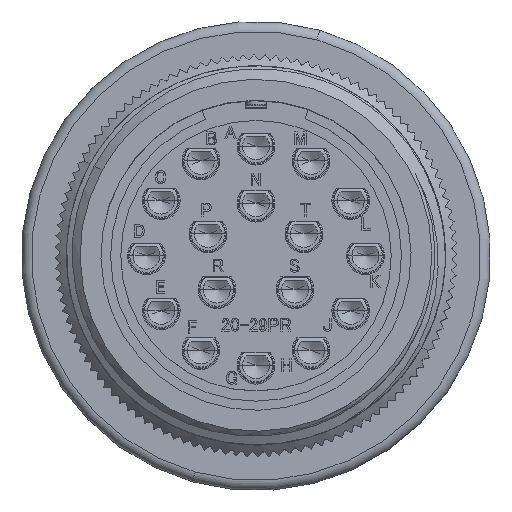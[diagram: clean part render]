
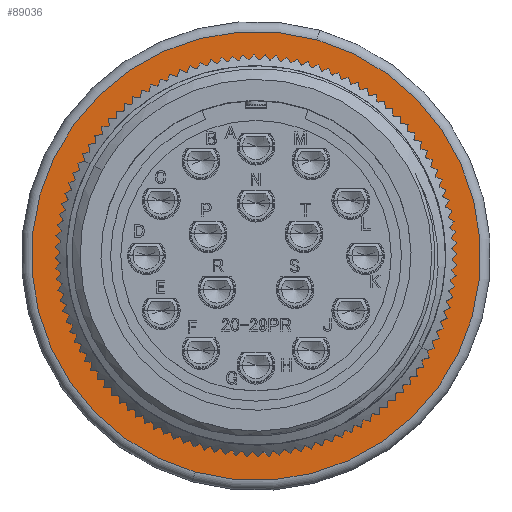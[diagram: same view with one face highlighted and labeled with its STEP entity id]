
A CAD part, top view. The second image highlights one B-rep face of the part: STEP entity #89036.
In plain terms, the highlighted planar face has unit normal (0, 0, 1).
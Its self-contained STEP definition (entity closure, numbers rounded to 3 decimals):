
#4106 = CIRCLE ( 'NONE', #152179, 14.525 ) ;
#4173 = CIRCLE ( 'NONE', #152187, 17.815 ) ;
#30268 = CARTESIAN_POINT ( 'NONE',  ( 0., 0., 21.93 ) ) ;
#30269 = DIRECTION ( 'NONE',  ( 0., 0., -1. ) ) ;
#30270 = DIRECTION ( 'NONE',  ( -0.271, -0.962, 0. ) ) ;
#30722 = CARTESIAN_POINT ( 'NONE',  ( 0., 0., 21.93 ) ) ;
#30723 = DIRECTION ( 'NONE',  ( 0., 0., 1. ) ) ;
#30724 = DIRECTION ( 'NONE',  ( -0.271, -0.962, 0. ) ) ;
#31527 = AXIS2_PLACEMENT_3D ( 'NONE', #64821, #64830, #64831 ) ;
#47648 = CIRCLE ( 'NONE', #154490, 17.815 ) ;
#47755 = CIRCLE ( 'NONE', #154498, 14.525 ) ;
#50480 = CARTESIAN_POINT ( 'NONE',  ( 0., 0., 21.93 ) ) ;
#50481 = DIRECTION ( 'NONE',  ( 0., 0., 1. ) ) ;
#50484 = DIRECTION ( 'NONE',  ( -0.271, -0.962, 0. ) ) ;
#51677 = CARTESIAN_POINT ( 'NONE',  ( -3.941, -13.98, 21.93 ) ) ;
#51678 = CARTESIAN_POINT ( 'NONE',  ( 3.941, 13.98, 21.93 ) ) ;
#51737 = CARTESIAN_POINT ( 'NONE',  ( 4.834, 17.147, 21.93 ) ) ;
#51742 = CARTESIAN_POINT ( 'NONE',  ( -4.834, -17.147, 21.93 ) ) ;
#52004 = CARTESIAN_POINT ( 'NONE',  ( 0., 0., 21.93 ) ) ;
#52005 = DIRECTION ( 'NONE',  ( 0., 0., -1. ) ) ;
#52006 = DIRECTION ( 'NONE',  ( -0.271, -0.962, 0. ) ) ;
#59440 = FACE_BOUND ( 'NONE', #108406, .T. ) ;
#59470 = FACE_OUTER_BOUND ( 'NONE', #108391, .T. ) ;
#64821 = CARTESIAN_POINT ( 'NONE',  ( -17.917, 5.051, 21.93 ) ) ;
#64825 = PLANE ( 'NONE',  #31527 ) ;
#64830 = DIRECTION ( 'NONE',  ( 0., 0., -1. ) ) ;
#64831 = DIRECTION ( 'NONE',  ( -0.271, -0.962, 0. ) ) ;
#89036 = ADVANCED_FACE ( 'NONE', ( #59440, #59470 ), #64825, .F. ) ;
#98027 = ORIENTED_EDGE ( 'NONE', *, *, #144120, .T. ) ;
#98028 = ORIENTED_EDGE ( 'NONE', *, *, #113069, .T. ) ;
#98030 = ORIENTED_EDGE ( 'NONE', *, *, #113134, .T. ) ;
#98031 = ORIENTED_EDGE ( 'NONE', *, *, #115710, .T. ) ;
#108391 = EDGE_LOOP ( 'NONE', ( #98030, #98031 ) ) ;
#108406 = EDGE_LOOP ( 'NONE', ( #98027, #98028 ) ) ;
#113069 = EDGE_CURVE ( 'NONE', #143410, #143409, #4106, .T. ) ;
#113134 = EDGE_CURVE ( 'NONE', #143521, #143513, #4173, .T. ) ;
#115710 = EDGE_CURVE ( 'NONE', #143513, #143521, #47648, .T. ) ;
#143409 = VERTEX_POINT ( 'NONE', #51677 ) ;
#143410 = VERTEX_POINT ( 'NONE', #51678 ) ;
#143513 = VERTEX_POINT ( 'NONE', #51737 ) ;
#143521 = VERTEX_POINT ( 'NONE', #51742 ) ;
#144120 = EDGE_CURVE ( 'NONE', #143409, #143410, #47755, .T. ) ;
#152179 = AXIS2_PLACEMENT_3D ( 'NONE', #30268, #30269, #30270 ) ;
#152187 = AXIS2_PLACEMENT_3D ( 'NONE', #30722, #30723, #30724 ) ;
#154490 = AXIS2_PLACEMENT_3D ( 'NONE', #50480, #50481, #50484 ) ;
#154498 = AXIS2_PLACEMENT_3D ( 'NONE', #52004, #52005, #52006 ) ;
